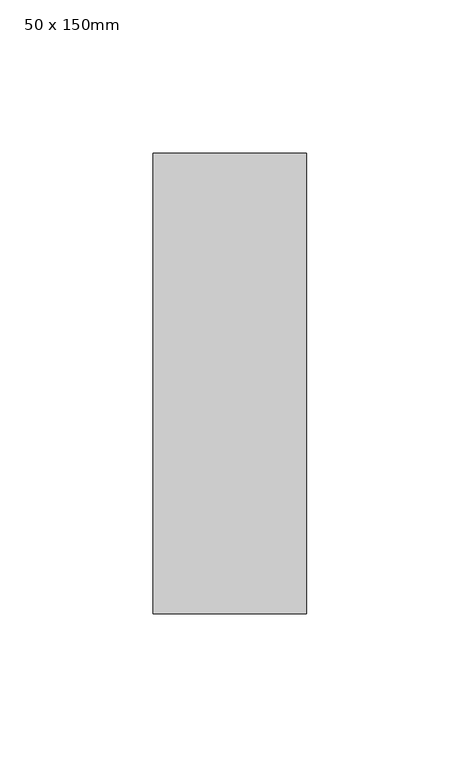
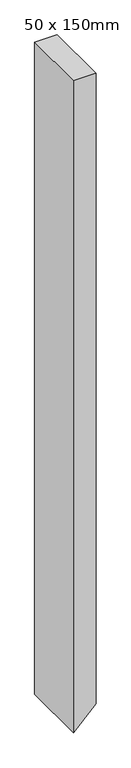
"""IFC4 building model written with IfcOpenShell, lengths in millimetres: member geometry, Prostokątny szpros : 50 x 150mm."""

from ifc_helpers import new_model, si_unit, frame, origin, place, context, project, spatial, polyline, outline, extrude, source, transform, mapped, element, save


def member_50_x_150mm_03ff18aa(model_context):
    return source(origin(), model_context, "Body", "SweptSolid", [
        extrude(outline(polyline([(0.0, 25.0), (0.0, -25.0), (-1538.2359314, -25.0), (-1488.2359314, 25.0), (0.0, 25.0)])), frame((0.0, -75.0, 0.0), z_axis=(0.0, 1.0, 0.0), x_axis=(0.0, 0.0, 1.0)), (0.0, 0.0, 1.0), 150.0),
    ])


if __name__ == "__main__":
    model = new_model("IFC4")
    model_context = context("Model", 3, world=origin())
    ifc_project = project(units=[si_unit("LENGTHUNIT", "METRE", prefix="MILLI")], contexts=[model_context])
    site = spatial("IfcSite", under=ifc_project)
    building = spatial("IfcBuilding", under=site)
    placement = place(None, origin())
    member_50_x_150mm_shape = member_50_x_150mm_03ff18aa(model_context)
    element("IfcMember", 1, ObjectType="Prostokątny szpros : 50 x 150mm", at=placement, inside=building, context=model_context, shape_type="MappedRepresentation", body=[
        mapped(member_50_x_150mm_shape, transform((0.0, 0.0, 0.0), x_axis=(1.0, 0.0, 0.0), y_axis=(0.0, 1.0, 0.0), z_axis=(0.0, 0.0, 1.0))),
    ])
    save(model, "model.ifc")
